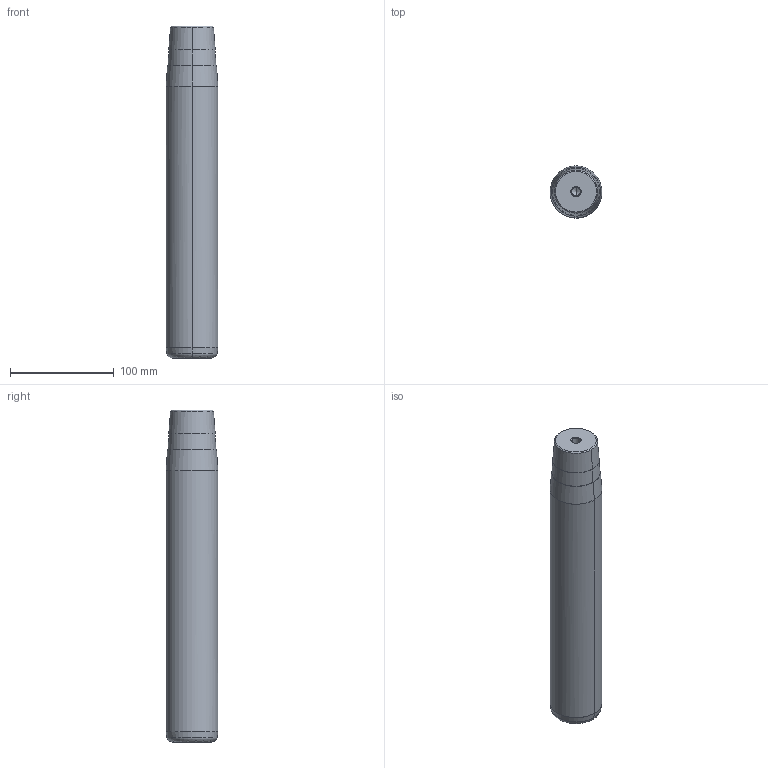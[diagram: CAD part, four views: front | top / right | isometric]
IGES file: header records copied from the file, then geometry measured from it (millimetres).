
Start section: START RECORD GO HERE.
Global section: file name: 722-50x280x320.igs; native system: DASSAULT SYSTEMES CATIA V5 R20 - www.3ds.com; preprocessor: CATIA Version 5 Release 20 ; author: Utente; organization: NB04-ASUS; date: 20210107.203755; units: millimetre
Bounding box: 50 x 50 x 320 mm (x, y, z)
Surface area: 53664.4 mm2 (no closed solid volume)
Topology: 0 solids, 0 shells, 32 faces, 192 edges, 188 vertices
Faces by surface type: revolution 30, plane 2
